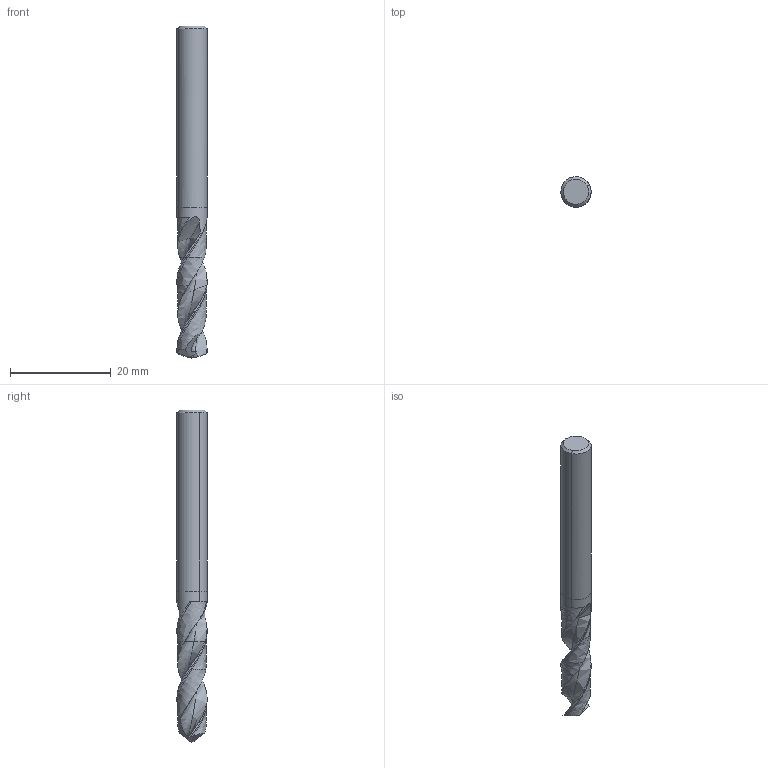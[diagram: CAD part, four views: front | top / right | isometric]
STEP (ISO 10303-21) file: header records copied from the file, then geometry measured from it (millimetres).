
FILE_DESCRIPTION(('CATIA V5 STEP','CAx-IF Rec.Pracs.--- Model Styling and Organization---1.2---2011-12-15'),'2;1');
FILE_NAME('N:\data\isr\design\special1\users\NATALY_B\Tal\NPA\6154737\SCD 060-020-060.stp','2017-03-12T10:33:29+00:00',('none'),('none'),'CATIA Version 5 Release 21 SP 5 (IN-10)','CATIA V5 STEP AP214','none');
FILE_SCHEMA(('AUTOMOTIVE_DESIGN { 1 0 10303 214 1 1 1 1 }'));
Length unit declared in the file: millimetre
Products named in the file (1): SCD 060-020-060
Bounding box: 6 x 6 x 66 mm (x, y, z)
Volume: 1484.1 mm3; surface area: 1321.7 mm2
Topology: 2 solids, 2 shells, 57 faces, 152 edges, 100 vertices
Faces by surface type: bspline 26, plane 13, cylinder 12, revolution 4, cone 2
Entity records: 3013 total; most frequent: CARTESIAN_POINT 1826, ORIENTED_EDGE 296, EDGE_CURVE 148, DIRECTION 100, VERTEX_POINT 95, B_SPLINE_CURVE_WITH_KNOTS 89, ADVANCED_FACE 57, OVER_RIDING_STYLED_ITEM 57
